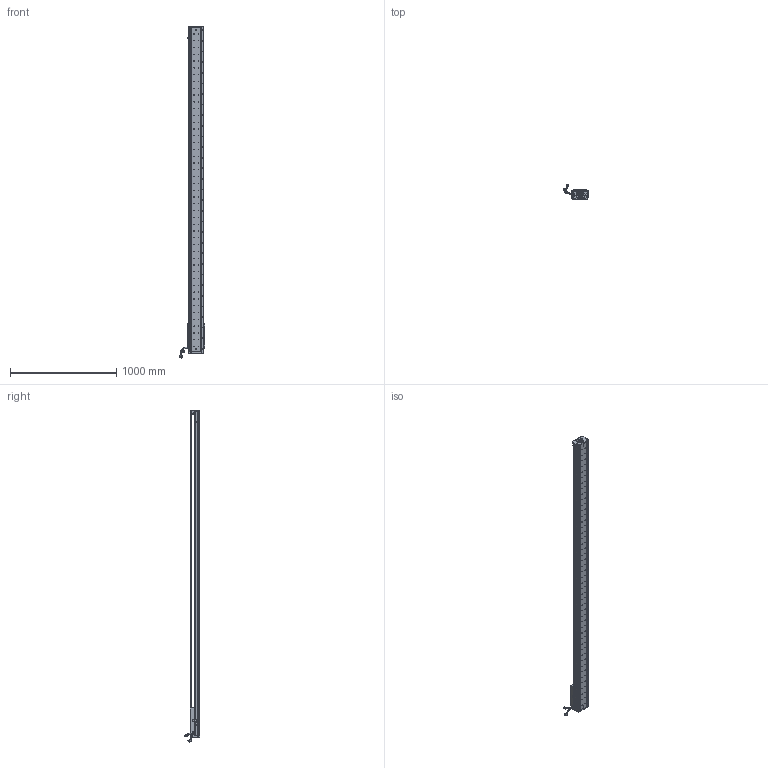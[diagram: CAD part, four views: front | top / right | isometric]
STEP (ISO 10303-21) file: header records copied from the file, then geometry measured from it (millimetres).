
FILE_DESCRIPTION (( 'STEP AP203' ), '1' );
FILE_NAME ('Z3-RY140D-1-L500-B-K.SLDASM_2750.step', '2021-05-17T08:06:26', ( '盈信电脑' ), ( '东莞市道滘镇水果街19号' ), 'SwSTEP 2.0', 'SolidWorks 2016', '' );
FILE_SCHEMA (( 'CONFIG_CONTROL_DESIGN' ));
Length unit declared in the file: millimetre
Products named in the file (36): Z-140詩湍傷裔啣; Z3-RY140圉猾敕臏賑輸(21遴); SCREW-M1.6-2; SCALE; SHIELDPLATE; SCALE-Part-2; Z3-RY140D-1-L500-B-K.SLDASM_2750; SEAL; SCREW-M1.6; 榋妏寠巭燃_暯_M2_2; PSLH080_PSLF2; 140蚥薯蝶輸; SCREW-M1.6-3; Z-RY140詩湍奻揤裔; 140-Z-臏賑輸盄裔(21遴); SCREW-M1.7-1; PBU_SHEET; LABEL; HOLDER0; LABEL-Part-1; SEAL-Part-1; 覜茼ん672; HARNESS-Part-2; Z3-RY140-L500詩湍100mm遵_2750; HARNESS-Part-1; Z-RY140詩湍狟揤裔; SCREW-M1.6-1; Z3-RY140-L500直线电机模组底座_2750; COVER; 140雄赽晤鎢ん堤盄; SCALE-Part-1; COVER-Part-1; HARNESS; 080黍杅芛假蚾釱21遴; Z-RY140感应器672光电感应片; SCREW-M1.7
Assembly tree (41 placements, depth 4):
  Z3-RY140D-1-L500-B-K.SLDASM_2750
    Z3-RY140-L500直线电机模组底座_2750
    Z-RY140感应器672光电感应片
    Z3-RY140圉猾敕臏賑輸(21遴)
    覜茼ん672  x3
    Z3-RY140-L500詩湍100mm遵_2750
    PSLH080_PSLF2
      SCALE
        SCALE-Part-1
        SCALE-Part-2
      HARNESS
        HARNESS-Part-1
        HARNESS-Part-2
      LABEL
        LABEL-Part-1
      COVER
        COVER-Part-1
      SEAL
        SEAL-Part-1
      榋妏寠巭燃_暯_M2_2
      SHIELDPLATE
      SCREW-M1.7
      SCREW-M1.7-1
      PBU_SHEET
      SCREW-M1.6
      SCREW-M1.6-1
      SCREW-M1.6-2
      SCREW-M1.6-3
      HOLDER0
    080黍杅芛假蚾釱21遴
    140-Z-臏賑輸盄裔(21遴)
    Z-140詩湍傷裔啣  x2
    Z-RY140詩湍狟揤裔  x2
    Z-RY140詩湍奻揤裔  x2
    140蚥薯蝶輸  x2
    140雄赽晤鎢ん堤盄
Bounding box: 239.79 x 143.88 x 3125.87 mm (x, y, z)
Volume: 9848279.2 mm3; surface area: 2570197.8 mm2
Topology: 36 solids, 36 shells, 4478 faces, 12262 edges, 7769 vertices
Faces by surface type: cylinder 2484, plane 1438, cone 434, torus 69, bspline 53
Entity records: 144374 total; most frequent: CARTESIAN_POINT 41665, ORIENTED_EDGE 21380, DIRECTION 19522, EDGE_CURVE 10690, AXIS2_PLACEMENT_3D 7274, VERTEX_POINT 6937, VECTOR 4974, LINE 4974
